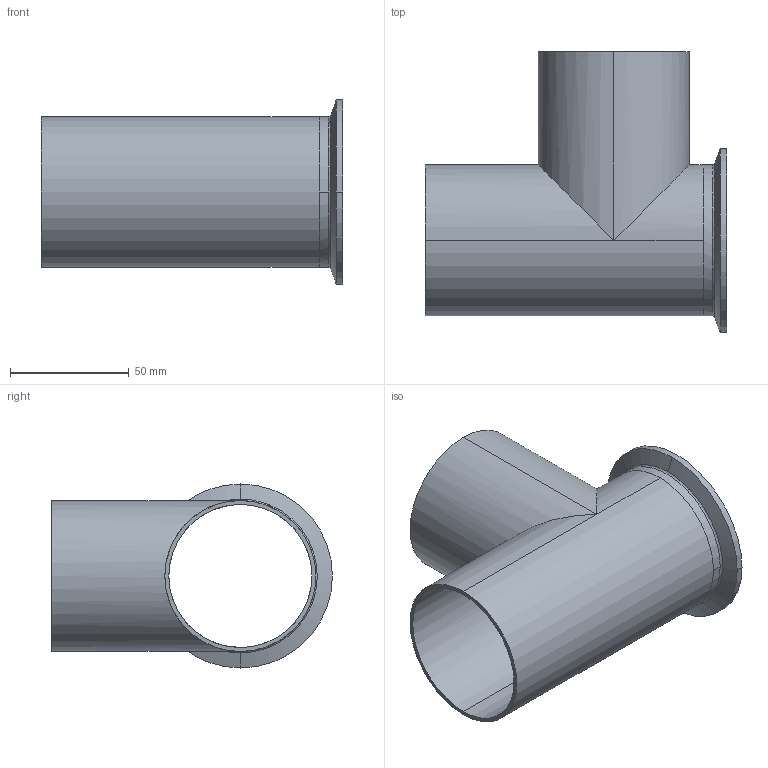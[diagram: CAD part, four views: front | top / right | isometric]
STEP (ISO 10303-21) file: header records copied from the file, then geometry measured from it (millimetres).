
FILE_DESCRIPTION (( 'STEP AP214' ), '1' );
FILE_NAME ('TE7WCSW6L2.5-...STEP', '2016-05-24T11:46:53', ( 'eran' ), ( '' ), 'SwSTEP 2.0', 'SolidWorks 2016', '' );
FILE_SCHEMA (( 'AUTOMOTIVE_DESIGN' ));
Length unit declared in the file: millimetre
Products named in the file (1): TE7WCSW6L2.5-..
Bounding box: 127 x 118.1 x 77.39 mm (x, y, z)
Volume: 59272.8 mm3; surface area: 69386.9 mm2
Topology: 2 solids, 2 shells, 38 faces, 94 edges, 60 vertices
Faces by surface type: cylinder 16, bspline 10, plane 6, cone 6
Entity records: 2280 total; most frequent: CARTESIAN_POINT 1334, DIRECTION 198, ORIENTED_EDGE 188, EDGE_CURVE 94, AXIS2_PLACEMENT_3D 87, VERTEX_POINT 60, CIRCLE 58, EDGE_LOOP 44
